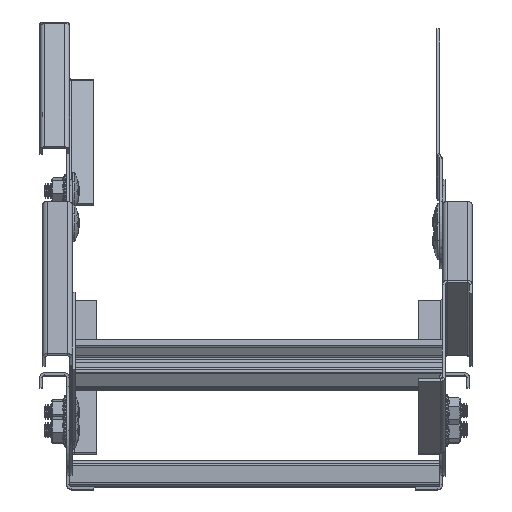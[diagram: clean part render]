
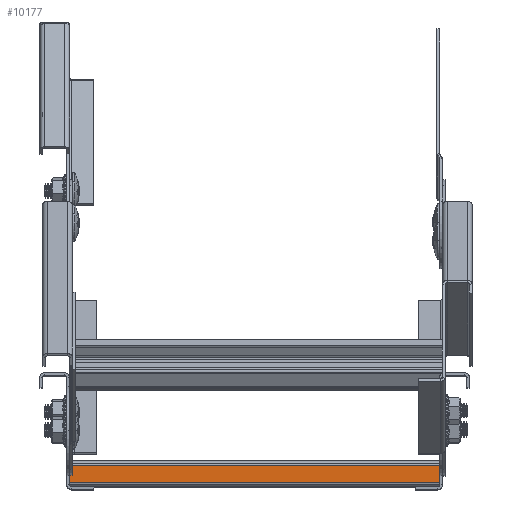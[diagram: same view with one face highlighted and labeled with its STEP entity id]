
A CAD part, top view. The second image highlights one B-rep face of the part: STEP entity #10177.
In plain terms, the highlighted planar face has unit normal (0, 0, 1) as drawn and (1, 0, 0) by its records, which use the part's own axes.
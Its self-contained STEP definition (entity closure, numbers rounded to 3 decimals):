
#61 = VERTEX_POINT ( 'NONE', #12827 ) ;
#979 = LINE ( 'NONE', #7302, #5746 ) ;
#1086 = AXIS2_PLACEMENT_3D ( 'NONE', #1716, #14415, #5395 ) ;
#1417 = EDGE_LOOP ( 'NONE', ( #13356, #4217, #5263, #8152 ) ) ;
#1716 = CARTESIAN_POINT ( 'NONE',  ( 17.5, 0., 100. ) ) ;
#2023 = DIRECTION ( 'NONE',  ( 0., 1., 0. ) ) ;
#2150 = EDGE_CURVE ( 'NONE', #6700, #10604, #979, .T. ) ;
#2620 = EDGE_CURVE ( 'NONE', #10944, #10604, #5041, .T. ) ;
#3074 = PLANE ( 'NONE',  #1086 ) ;
#3212 = EDGE_CURVE ( 'NONE', #61, #6700, #9465, .T. ) ;
#3897 = DIRECTION ( 'NONE',  ( 0., 0., -1. ) ) ;
#4217 = ORIENTED_EDGE ( 'NONE', *, *, #2150, .F. ) ;
#5041 = LINE ( 'NONE', #14555, #11644 ) ;
#5117 = DIRECTION ( 'NONE',  ( 0., 1., 0. ) ) ;
#5263 = ORIENTED_EDGE ( 'NONE', *, *, #3212, .F. ) ;
#5395 = DIRECTION ( 'NONE',  ( 0., 0., 1. ) ) ;
#5746 = VECTOR ( 'NONE', #12185, 1000. ) ;
#6700 = VERTEX_POINT ( 'NONE', #15419 ) ;
#7045 = EDGE_CURVE ( 'NONE', #61, #10944, #7714, .T. ) ;
#7098 = CARTESIAN_POINT ( 'NONE',  ( 17.5, 11.5, -100. ) ) ;
#7302 = CARTESIAN_POINT ( 'NONE',  ( 17.5, 11.5, 100. ) ) ;
#7714 = LINE ( 'NONE', #11487, #13541 ) ;
#8152 = ORIENTED_EDGE ( 'NONE', *, *, #7045, .T. ) ;
#9465 = LINE ( 'NONE', #11944, #13464 ) ;
#10177 = ADVANCED_FACE ( 'NONE', ( #10827 ), #3074, .F. ) ;
#10604 = VERTEX_POINT ( 'NONE', #7098 ) ;
#10781 = CARTESIAN_POINT ( 'NONE',  ( 17.5, 2.5, -100. ) ) ;
#10827 = FACE_OUTER_BOUND ( 'NONE', #1417, .T. ) ;
#10944 = VERTEX_POINT ( 'NONE', #10781 ) ;
#11487 = CARTESIAN_POINT ( 'NONE',  ( 17.5, 2.5, 100. ) ) ;
#11644 = VECTOR ( 'NONE', #5117, 1000. ) ;
#11944 = CARTESIAN_POINT ( 'NONE',  ( 17.5, 0., 100. ) ) ;
#12185 = DIRECTION ( 'NONE',  ( 0., 0., -1. ) ) ;
#12827 = CARTESIAN_POINT ( 'NONE',  ( 17.5, 2.5, 100. ) ) ;
#13356 = ORIENTED_EDGE ( 'NONE', *, *, #2620, .T. ) ;
#13464 = VECTOR ( 'NONE', #2023, 1000. ) ;
#13541 = VECTOR ( 'NONE', #3897, 1000. ) ;
#14415 = DIRECTION ( 'NONE',  ( -1., 0., 0. ) ) ;
#14555 = CARTESIAN_POINT ( 'NONE',  ( 17.5, 0., -100. ) ) ;
#15419 = CARTESIAN_POINT ( 'NONE',  ( 17.5, 11.5, 100. ) ) ;
